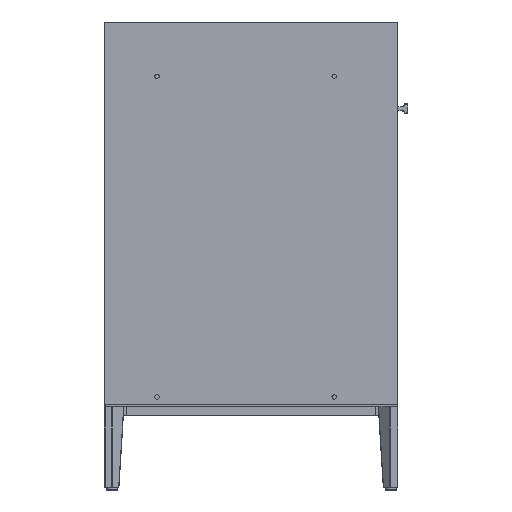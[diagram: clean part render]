
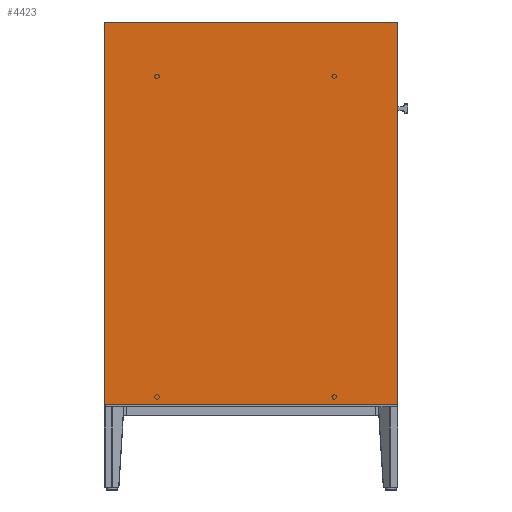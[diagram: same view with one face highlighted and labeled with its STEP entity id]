
A CAD part, left-side view. The second image highlights one B-rep face of the part: STEP entity #4423.
In plain terms, the highlighted planar face has unit normal (-1, 0, 0).
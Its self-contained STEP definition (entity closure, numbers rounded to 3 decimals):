
#4423=ADVANCED_FACE('',(#6020),#26894,.T.);
#6020=FACE_OUTER_BOUND('',#7722,.T.);
#7722=EDGE_LOOP('',(#16019,#16020,#16021,#16022));
#16019=ORIENTED_EDGE('',*,*,#20541,.T.);
#16020=ORIENTED_EDGE('',*,*,#20542,.T.);
#16021=ORIENTED_EDGE('',*,*,#20543,.T.);
#16022=ORIENTED_EDGE('',*,*,#20544,.T.);
#20541=EDGE_CURVE('',#26113,#26114,#23272,.T.);
#20542=EDGE_CURVE('',#26114,#26115,#23273,.T.);
#20543=EDGE_CURVE('',#26115,#26116,#23274,.T.);
#20544=EDGE_CURVE('',#26116,#26113,#23275,.T.);
#23272=B_SPLINE_CURVE_WITH_KNOTS('',1,(#71847,#71848),.UNSPECIFIED.,.F.,
 .F.,(2,2),(0.,530.),.UNSPECIFIED.);
#23273=B_SPLINE_CURVE_WITH_KNOTS('',1,(#71849,#71850),.UNSPECIFIED.,.F.,
 .F.,(2,2),(0.,690.),.UNSPECIFIED.);
#23274=B_SPLINE_CURVE_WITH_KNOTS('',1,(#71851,#71852),.UNSPECIFIED.,.F.,
 .F.,(2,2),(0.,530.),.UNSPECIFIED.);
#23275=B_SPLINE_CURVE_WITH_KNOTS('',1,(#71853,#71854),.UNSPECIFIED.,.F.,
 .F.,(2,2),(0.,690.),.UNSPECIFIED.);
#26113=VERTEX_POINT('',#71831);
#26114=VERTEX_POINT('',#71832);
#26115=VERTEX_POINT('',#71833);
#26116=VERTEX_POINT('',#71834);
#26894=PLANE('',#27648);
#27648=AXIS2_PLACEMENT_3D('',#71749,#28386,$);
#28386=DIRECTION('',(-1.,0.,0.));
#71749=CARTESIAN_POINT('',(3348.322,-45.118,85.988));
#71831=CARTESIAN_POINT('',(3348.322,537.942,155.048));
#71832=CARTESIAN_POINT('',(3348.322,7.942,155.048));
#71833=CARTESIAN_POINT('',(3348.322,7.942,845.048));
#71834=CARTESIAN_POINT('',(3348.322,537.942,845.048));
#71847=CARTESIAN_POINT('',(3348.322,537.942,155.048));
#71848=CARTESIAN_POINT('',(3348.322,7.942,155.048));
#71849=CARTESIAN_POINT('',(3348.322,7.942,155.048));
#71850=CARTESIAN_POINT('',(3348.322,7.942,845.048));
#71851=CARTESIAN_POINT('',(3348.322,7.942,845.048));
#71852=CARTESIAN_POINT('',(3348.322,537.942,845.048));
#71853=CARTESIAN_POINT('',(3348.322,537.942,845.048));
#71854=CARTESIAN_POINT('',(3348.322,537.942,155.048));
